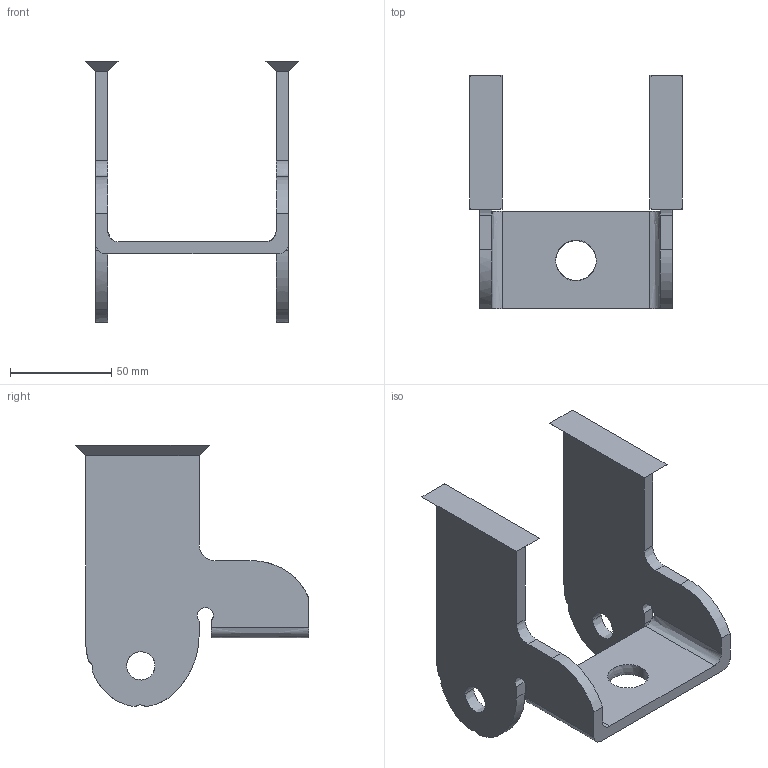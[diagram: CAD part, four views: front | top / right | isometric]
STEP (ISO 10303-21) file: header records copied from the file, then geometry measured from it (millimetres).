
FILE_DESCRIPTION (( 'STEP AP214' ), '1' );
FILE_NAME ('KTU-150WK-GS-20.STEP', '2018-08-30T07:47:09', ( '' ), ( '' ), 'SwSTEP 2.0', 'SolidWorks 2010', '' );
FILE_SCHEMA (( 'AUTOMOTIVE_DESIGN' ));
Length unit declared in the file: millimetre
Products named in the file (1): KTU-150WK-GS-20
Bounding box: 105 x 115 x 128.87 mm (x, y, z)
Volume: 127201.9 mm3; surface area: 50010.7 mm2
Topology: 1 solids, 1 shells, 58 faces, 160 edges, 104 vertices
Faces by surface type: bspline 32, plane 26
Entity records: 3750 total; most frequent: CARTESIAN_POINT 2467, ORIENTED_EDGE 320, EDGE_CURVE 160, DIRECTION 142, VERTEX_POINT 104, VECTOR 88, LINE 88, B_SPLINE_CURVE_WITH_KNOTS 72
